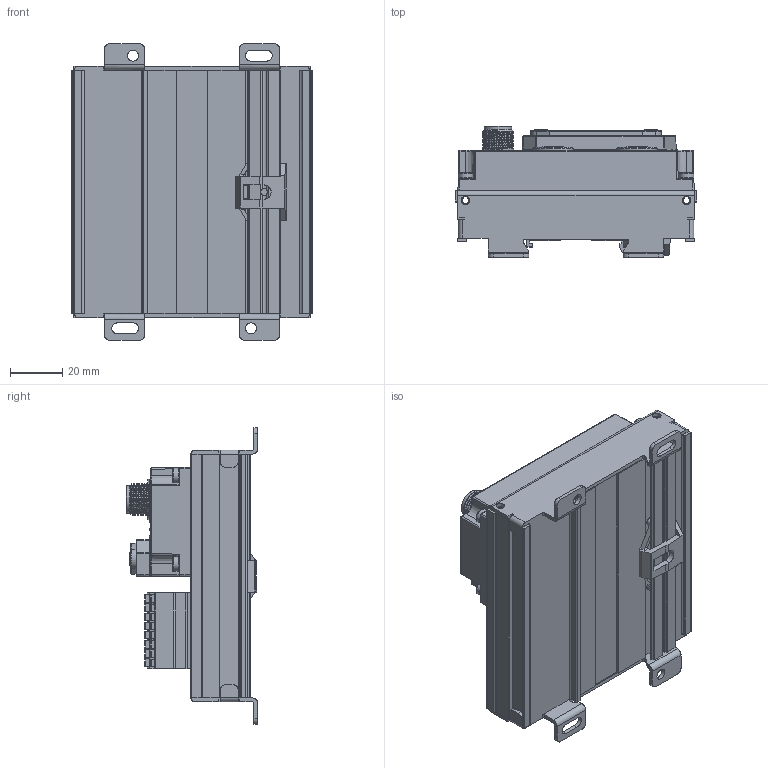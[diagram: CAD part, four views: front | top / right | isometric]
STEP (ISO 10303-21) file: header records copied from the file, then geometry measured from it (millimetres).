
FILE_DESCRIPTION (( 'STEP AP203' ), '1' );
FILE_NAME ('郪磁11.STEP', '2023-08-21T05:14:00', ( '' ), ( '' ), 'SwSTEP 2.0', 'SolidWorks 2016', '' );
FILE_SCHEMA (( 'CONFIG_CONTROL_DESIGN' ));
Products named in the file (1): 郪磁11
Bounding box: 92 x 50.1 x 113 mm (x, y, z)
Volume: 242056.8 mm3; surface area: 56247.8 mm2
Topology: 1 solids, 1 shells, 4606 faces, 12647 edges, 8332 vertices
Faces by surface type: plane 2827, cylinder 963, bspline 635, cone 169, torus 8, sphere 4
Full cylindrical faces by diameter (mm): 1 x4, 1.02 x5, 1.2 x8, 1.55 x1, 1.8 x1, 2.1 x8, 2.35 x4, 2.6 x7, 2.65 x1, 2.7 x23, 2.75 x6, 3.1 x48, 3.2 x6, 4.2 x2, 5 x4, 5.3 x2, 5.6 x4, 8.3 x1, 10.5 x1, 12.1 x2, 15.5 x3
Entity records: 197381 total; most frequent: CARTESIAN_POINT 91168, ORIENTED_EDGE 24706, DIRECTION 17153, EDGE_CURVE 12353, VERTEX_POINT 8245, LINE 7597, VECTOR 7597, EDGE_LOOP 5172
